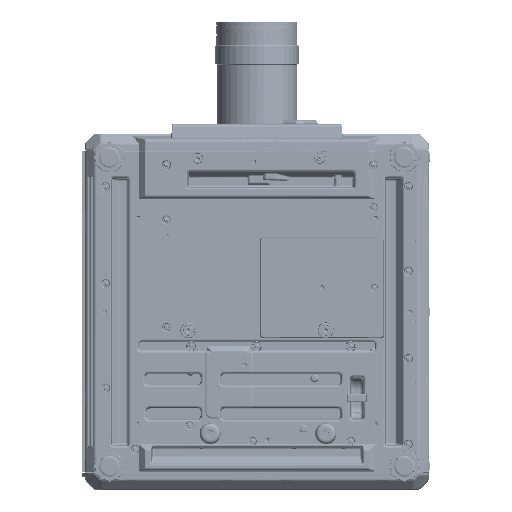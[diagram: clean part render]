
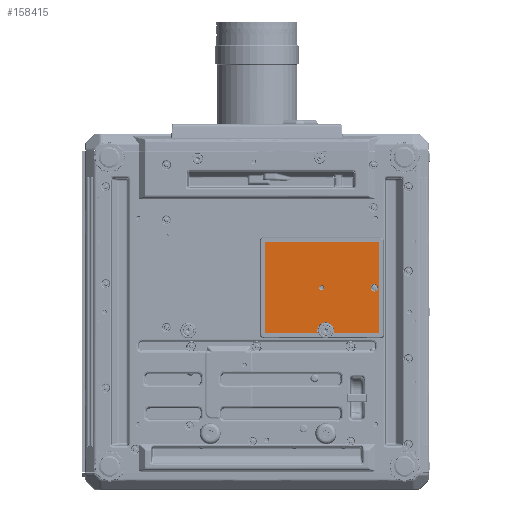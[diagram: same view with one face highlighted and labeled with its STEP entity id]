
A CAD part, front view. The second image highlights one B-rep face of the part: STEP entity #158415.
In plain terms, the highlighted planar face has unit normal (0, -1, 0).
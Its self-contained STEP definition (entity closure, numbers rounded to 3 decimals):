
#82900=ELLIPSE('',#348164,1.504,1.5);
#82901=ELLIPSE('',#348165,1.504,1.5);
#82902=ELLIPSE('',#348167,1.504,1.5);
#82903=ELLIPSE('',#348168,1.504,1.5);
#88853=PLANE('',#348169);
#106365=LINE('',#503197,#133082);
#106366=LINE('',#503202,#133083);
#106367=LINE('',#503206,#133084);
#106368=LINE('',#503250,#133085);
#106369=LINE('',#503254,#133086);
#133082=VECTOR('',#381291,1.);
#133083=VECTOR('',#381294,1.);
#133084=VECTOR('',#381297,1.);
#133085=VECTOR('',#381300,1.);
#133086=VECTOR('',#381303,1.);
#158415=ADVANCED_FACE('',(#173706,#173707,#173708),#88853,.F.);
#170507=B_SPLINE_CURVE_WITH_KNOTS('',3,(#503208,#503209,#503210,#503211,
#503212,#503213,#503214,#503215,#503216,#503217,#503218,#503219,#503220,
#503221,#503222,#503223,#503224,#503225,#503226),.UNSPECIFIED.,.F.,.F.,
(4,3,3,3,3,3,4),(0.,0.054,0.243,0.432,
0.621,0.811,1.),.UNSPECIFIED.);
#170508=B_SPLINE_CURVE_WITH_KNOTS('',3,(#503230,#503231,#503232,#503233,
#503234,#503235,#503236,#503237,#503238,#503239,#503240,#503241,#503242,
#503243,#503244,#503245,#503246,#503247,#503248),.UNSPECIFIED.,.F.,.F.,
(4,3,3,3,3,3,4),(0.,0.054,0.243,0.432,
0.621,0.811,1.),.UNSPECIFIED.);
#173706=FACE_BOUND('',#177259,.T.);
#173707=FACE_BOUND('',#177260,.T.);
#173708=FACE_BOUND('',#177261,.T.);
#177259=EDGE_LOOP('',(#198474));
#177260=EDGE_LOOP('',(#198475));
#177261=EDGE_LOOP('',(#198476,#198477,#198478,#198479,#198480,#198481,#198482,
#198483,#198484,#198485,#198486,#198487));
#198474=ORIENTED_EDGE('',*,*,#294650,.T.);
#198475=ORIENTED_EDGE('',*,*,#294651,.T.);
#198476=ORIENTED_EDGE('',*,*,#294652,.T.);
#198477=ORIENTED_EDGE('',*,*,#294653,.T.);
#198478=ORIENTED_EDGE('',*,*,#294654,.T.);
#198479=ORIENTED_EDGE('',*,*,#294655,.T.);
#198480=ORIENTED_EDGE('',*,*,#294656,.T.);
#198481=ORIENTED_EDGE('',*,*,#294657,.T.);
#198482=ORIENTED_EDGE('',*,*,#294658,.T.);
#198483=ORIENTED_EDGE('',*,*,#294659,.T.);
#198484=ORIENTED_EDGE('',*,*,#294660,.T.);
#198485=ORIENTED_EDGE('',*,*,#294661,.T.);
#198486=ORIENTED_EDGE('',*,*,#294662,.T.);
#198487=ORIENTED_EDGE('',*,*,#294663,.T.);
#253834=VERTEX_POINT('',#503193);
#253835=VERTEX_POINT('',#503196);
#253836=VERTEX_POINT('',#503198);
#253837=VERTEX_POINT('',#503199);
#253838=VERTEX_POINT('',#503201);
#253839=VERTEX_POINT('',#503203);
#253840=VERTEX_POINT('',#503205);
#253841=VERTEX_POINT('',#503207);
#253842=VERTEX_POINT('',#503227);
#253843=VERTEX_POINT('',#503229);
#253844=VERTEX_POINT('',#503249);
#253845=VERTEX_POINT('',#503251);
#253846=VERTEX_POINT('',#503253);
#253847=VERTEX_POINT('',#503255);
#294650=EDGE_CURVE('',#253834,#253834,#336576,.T.);
#294651=EDGE_CURVE('',#253835,#253835,#336577,.T.);
#294652=EDGE_CURVE('',#253836,#253837,#106365,.T.);
#294653=EDGE_CURVE('',#253837,#253838,#82900,.T.);
#294654=EDGE_CURVE('',#253838,#253839,#106366,.T.);
#294655=EDGE_CURVE('',#253839,#253840,#82901,.T.);
#294656=EDGE_CURVE('',#253840,#253841,#106367,.T.);
#294657=EDGE_CURVE('',#253841,#253842,#170507,.T.);
#294658=EDGE_CURVE('',#253842,#253843,#336578,.T.);
#294659=EDGE_CURVE('',#253843,#253844,#170508,.T.);
#294660=EDGE_CURVE('',#253844,#253845,#106368,.T.);
#294661=EDGE_CURVE('',#253845,#253846,#82902,.T.);
#294662=EDGE_CURVE('',#253846,#253847,#106369,.T.);
#294663=EDGE_CURVE('',#253847,#253836,#82903,.T.);
#336576=CIRCLE('',#348161,4.);
#336577=CIRCLE('',#348163,6.125);
#336578=CIRCLE('',#348166,13.358);
#348161=AXIS2_PLACEMENT_3D('',#503192,#381285,#381286);
#348163=AXIS2_PLACEMENT_3D('',#503195,#381289,#381290);
#348164=AXIS2_PLACEMENT_3D('',#503200,#381292,#381293);
#348165=AXIS2_PLACEMENT_3D('',#503204,#381295,#381296);
#348166=AXIS2_PLACEMENT_3D('',#503228,#381298,#381299);
#348167=AXIS2_PLACEMENT_3D('',#503252,#381301,#381302);
#348168=AXIS2_PLACEMENT_3D('',#503256,#381304,#381305);
#348169=AXIS2_PLACEMENT_3D('',#503257,#381306,#381307);
#381285=DIRECTION('',(0.,1.,0.));
#381286=DIRECTION('',(0.,0.,1.));
#381289=DIRECTION('',(0.,1.,0.));
#381290=DIRECTION('',(0.,0.,1.));
#381291=DIRECTION('',(-1.,0.,0.));
#381292=DIRECTION('',(0.,-1.,0.));
#381293=DIRECTION('',(0.707,0.,-0.707));
#381294=DIRECTION('',(0.,0.,-1.));
#381295=DIRECTION('',(0.,-1.,0.));
#381296=DIRECTION('',(-0.707,0.,-0.707));
#381297=DIRECTION('',(1.,0.,0.));
#381298=DIRECTION('',(0.,1.,0.));
#381299=DIRECTION('',(0.,0.,1.));
#381300=DIRECTION('',(1.,0.,0.));
#381301=DIRECTION('',(0.,-1.,0.));
#381302=DIRECTION('',(-0.707,0.,0.707));
#381303=DIRECTION('',(0.,0.,1.));
#381304=DIRECTION('',(0.,-1.,0.));
#381305=DIRECTION('',(-0.707,0.,-0.707));
#381306=DIRECTION('',(0.,1.,0.));
#381307=DIRECTION('',(0.,0.,1.));
#503192=CARTESIAN_POINT('',(103.8,-116.5,-1.5));
#503193=CARTESIAN_POINT('',(103.8,-116.5,2.5));
#503195=CARTESIAN_POINT('',(187.8,-116.5,-1.5));
#503196=CARTESIAN_POINT('',(187.8,-116.5,4.625));
#503197=CARTESIAN_POINT('',(110.,-116.5,71.642));
#503198=CARTESIAN_POINT('',(193.644,-116.5,71.642));
#503199=CARTESIAN_POINT('',(14.356,-116.5,71.642));
#503200=CARTESIAN_POINT('',(14.36,-116.5,70.14));
#503201=CARTESIAN_POINT('',(12.858,-116.5,70.144));
#503202=CARTESIAN_POINT('',(12.858,-116.5,-70.));
#503203=CARTESIAN_POINT('',(12.858,-116.5,-73.144));
#503204=CARTESIAN_POINT('',(14.36,-116.5,-73.14));
#503205=CARTESIAN_POINT('',(14.356,-116.5,-74.642));
#503206=CARTESIAN_POINT('',(110.,-116.5,-74.642));
#503207=CARTESIAN_POINT('',(95.481,-116.5,-74.642));
#503208=CARTESIAN_POINT('',(95.481,-116.5,-74.642));
#503209=CARTESIAN_POINT('',(95.529,-116.5,-74.642));
#503210=CARTESIAN_POINT('',(95.578,-116.5,-74.64));
#503211=CARTESIAN_POINT('',(95.627,-116.5,-74.635));
#503212=CARTESIAN_POINT('',(95.794,-116.5,-74.619));
#503213=CARTESIAN_POINT('',(95.96,-116.5,-74.574));
#503214=CARTESIAN_POINT('',(96.112,-116.5,-74.503));
#503215=CARTESIAN_POINT('',(96.264,-116.5,-74.433));
#503216=CARTESIAN_POINT('',(96.405,-116.5,-74.335));
#503217=CARTESIAN_POINT('',(96.525,-116.5,-74.219));
#503218=CARTESIAN_POINT('',(96.645,-116.5,-74.102));
#503219=CARTESIAN_POINT('',(96.747,-116.5,-73.963));
#503220=CARTESIAN_POINT('',(96.822,-116.5,-73.813));
#503221=CARTESIAN_POINT('',(96.897,-116.5,-73.662));
#503222=CARTESIAN_POINT('',(96.947,-116.5,-73.497));
#503223=CARTESIAN_POINT('',(96.967,-116.5,-73.33));
#503224=CARTESIAN_POINT('',(96.988,-116.5,-73.164));
#503225=CARTESIAN_POINT('',(96.98,-116.5,-72.991));
#503226=CARTESIAN_POINT('',(96.945,-116.5,-72.827));
#503227=CARTESIAN_POINT('',(96.945,-116.5,-72.827));
#503228=CARTESIAN_POINT('',(110.,-116.5,-70.));
#503229=CARTESIAN_POINT('',(123.055,-116.5,-72.827));
#503230=CARTESIAN_POINT('',(123.055,-116.5,-72.827));
#503231=CARTESIAN_POINT('',(123.045,-116.5,-72.875));
#503232=CARTESIAN_POINT('',(123.037,-116.5,-72.923));
#503233=CARTESIAN_POINT('',(123.031,-116.5,-72.972));
#503234=CARTESIAN_POINT('',(123.012,-116.5,-73.138));
#503235=CARTESIAN_POINT('',(123.021,-116.5,-73.31));
#503236=CARTESIAN_POINT('',(123.058,-116.5,-73.473));
#503237=CARTESIAN_POINT('',(123.094,-116.5,-73.637));
#503238=CARTESIAN_POINT('',(123.159,-116.5,-73.796));
#503239=CARTESIAN_POINT('',(123.248,-116.5,-73.938));
#503240=CARTESIAN_POINT('',(123.337,-116.5,-74.08));
#503241=CARTESIAN_POINT('',(123.451,-116.5,-74.209));
#503242=CARTESIAN_POINT('',(123.582,-116.5,-74.313));
#503243=CARTESIAN_POINT('',(123.713,-116.5,-74.418));
#503244=CARTESIAN_POINT('',(123.864,-116.5,-74.502));
#503245=CARTESIAN_POINT('',(124.023,-116.5,-74.558));
#503246=CARTESIAN_POINT('',(124.181,-116.5,-74.613));
#503247=CARTESIAN_POINT('',(124.351,-116.5,-74.642));
#503248=CARTESIAN_POINT('',(124.519,-116.5,-74.642));
#503249=CARTESIAN_POINT('',(124.519,-116.5,-74.642));
#503250=CARTESIAN_POINT('',(110.,-116.5,-74.642));
#503251=CARTESIAN_POINT('',(193.644,-116.5,-74.642));
#503252=CARTESIAN_POINT('',(193.64,-116.5,-73.14));
#503253=CARTESIAN_POINT('',(195.142,-116.5,-73.144));
#503254=CARTESIAN_POINT('',(195.142,-116.5,-70.));
#503255=CARTESIAN_POINT('',(195.142,-116.5,70.144));
#503256=CARTESIAN_POINT('',(193.64,-116.5,70.14));
#503257=CARTESIAN_POINT('',(110.,-116.5,-70.));
